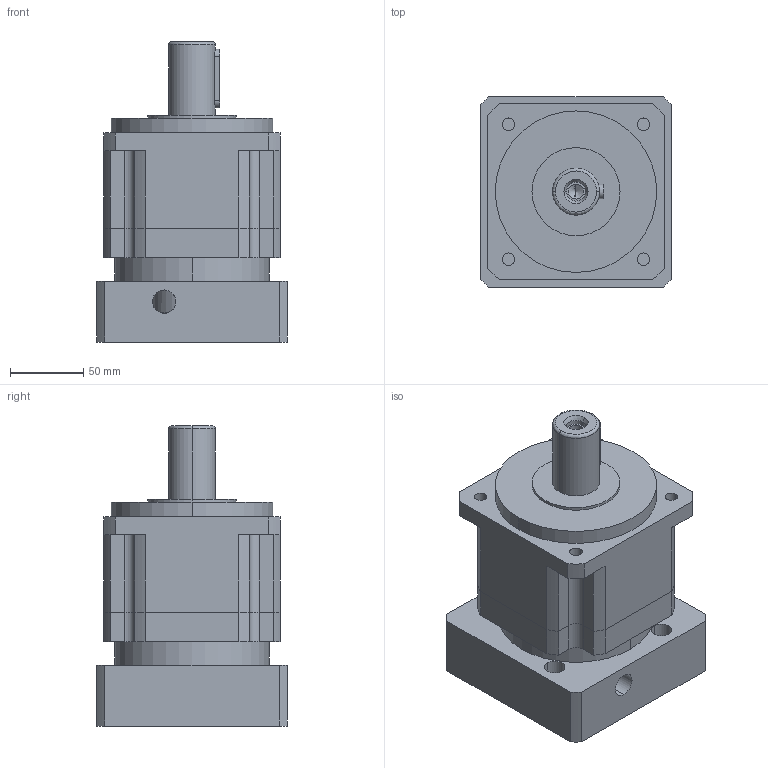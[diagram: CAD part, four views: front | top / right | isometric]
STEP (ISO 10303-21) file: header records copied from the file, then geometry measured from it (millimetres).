
FILE_DESCRIPTION (( 'STEP AP203' ), '1' );
FILE_NAME ('PAG120-L1-22-110-145M8粣酗71.STEP', '2024-01-12T03:10:07', ( 'Windows User' ), ( 'P R C' ), 'SwSTEP 2.0', 'SolidWorks 2016', '' );
FILE_SCHEMA (( 'CONFIG_CONTROL_DESIGN' ));
Length unit declared in the file: millimetre
Products named in the file (7): 囀鞠褒蹟佪-M8℅25; 邧埴瑩 10x8x40; 粣創-6009 45x75x16; PAG120-L1-22-110-145M8粣酗71; PAG120-本体齿圈; PAG120-薊粣ん_LZ03; PAG120-帣釱-LR71
Assembly tree (6 placements, depth 2):
  PAG120-L1-22-110-145M8粣酗71
    PAG120-本体齿圈
    PAG120-薊粣ん_LZ03
    PAG120-帣釱-LR71
    囀鞠褒蹟佪-M8℅25
    邧埴瑩 10x8x40
    粣創-6009 45x75x16
Bounding box: 130 x 130 x 204.5 mm (x, y, z)
Volume: 1770633.8 mm3; surface area: 223296 mm2
Topology: 6 solids, 6 shells, 1026 faces, 2843 edges, 1876 vertices
Faces by surface type: plane 577, bspline 268, cylinder 165, cone 16
Entity records: 43709 total; most frequent: CARTESIAN_POINT 18342, ORIENTED_EDGE 5658, DIRECTION 4249, EDGE_CURVE 2829, VERTEX_POINT 1872, LINE 1673, VECTOR 1673, AXIS2_PLACEMENT_3D 1288
